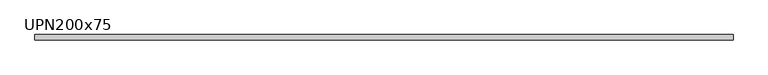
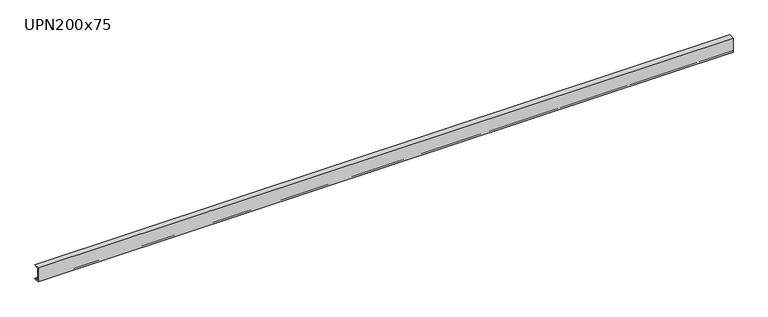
"""IFC4 building model written with IfcOpenShell, lengths in millimetres: beam geometry, M_MC Shapes : UPN200x75."""

import ifcopenshell
import ifcopenshell.guid

model = None  # the IFC model being written
_history = None  # IfcOwnerHistory: only IFC2X3 demands one
_inside = {}  # id of a spatial element -> (the spatial element, [elements in it])
_under = {}  # id of a project, library or spatial element -> (it, [spatial elements below it])
_declared = {}  # id of a project -> (the project, [libraries it declares])
_typed = {}  # id of a type object -> (the type object, [elements of that type])
_made_of = {}  # id of a material, layer set ... -> (it, [elements and type objects made of it])


def new_model(schema):
    """Start an empty IFC model of exactly this schema.

    Asked for "IFC4X3", IfcOpenShell would pick the latest addendum, in which some entities
    have other attributes; the version numbers below select the first issue.
    IFC2X3 requires an IfcOwnerHistory on every rooted entity: one is made here for all.
    """
    global model, _history
    if schema == "IFC4X3":
        model = ifcopenshell.file(schema_version=(4, 3, 0, 0))
    else:
        model = ifcopenshell.file(schema=schema)
    _inside.clear()
    _under.clear()
    _declared.clear()
    _typed.clear()
    _made_of.clear()
    _history = None
    if model.schema == "IFC2X3":
        org = make("IfcOrganization", Name="unknown")
        user = make(
            "IfcPersonAndOrganization",
            ThePerson=make("IfcPerson", FamilyName="unknown"),
            TheOrganization=org,
        )
        app = make(
            "IfcApplication",
            ApplicationDeveloper=org,
            Version="unknown",
            ApplicationFullName="unknown",
            ApplicationIdentifier="unknown",
        )
        _history = make(
            "IfcOwnerHistory",
            OwningUser=user,
            OwningApplication=app,
            ChangeAction="ADDED",
            CreationDate=0,
        )
    return model


def make(cls, **values):
    """One entity of the class cls with the attributes given. An attribute that is None is left unset."""
    return model.create_entity(
        cls, **{name: value for name, value in values.items() if value is not None}
    )


def rooted(cls, **values):
    """An entity with a GlobalId (a new one), such as an element, a storey or a relation."""
    return make(cls, GlobalId=ifcopenshell.guid.new(), OwnerHistory=_history, **values)


def si_unit(unit_type, name, prefix=None):
    """IfcSIUnit, for example si_unit("LENGTHUNIT", "METRE", prefix="MILLI")."""
    return make("IfcSIUnit", UnitType=unit_type, Prefix=prefix, Name=name)


def assignment(units):
    """IfcUnitAssignment: the units of a project."""
    return None if units is None else make("IfcUnitAssignment", Units=units)


def point(xyz):
    """IfcCartesianPoint."""
    return None if xyz is None else make("IfcCartesianPoint", Coordinates=xyz)


def direction(xyz):
    """IfcDirection."""
    return None if xyz is None else make("IfcDirection", DirectionRatios=xyz)


def frame(location, z_axis=None, x_axis=None):
    """IfcAxis2Placement3D, a coordinate frame: its origin and axes. An axis left out is left unset."""
    return make(
        "IfcAxis2Placement3D",
        Location=point(location),
        Axis=direction(z_axis),
        RefDirection=direction(x_axis),
    )


def frame_2d(location, x_axis=None):
    """IfcAxis2Placement2D, a coordinate frame in the plane: its origin and x axis."""
    return make(
        "IfcAxis2Placement2D", Location=point(location), RefDirection=direction(x_axis)
    )


def origin():
    """The frame at (0, 0, 0) with its axes left unset."""
    return frame((0.0, 0.0, 0.0))


def place(relative_to, where):
    """IfcLocalPlacement: puts the frame where relative to a parent placement (None: the world)."""
    return make(
        "IfcLocalPlacement", PlacementRelTo=relative_to, RelativePlacement=where
    )


def context(
    kind, dimensions, precision=None, world=None, true_north=None, identifier=None
):
    """IfcGeometricRepresentationContext, for example the 3D "Model" context."""
    return make(
        "IfcGeometricRepresentationContext",
        ContextIdentifier=identifier,
        ContextType=kind,
        CoordinateSpaceDimension=dimensions,
        Precision=precision,
        WorldCoordinateSystem=world,
        TrueNorth=true_north,
    )


def project(units=None, contexts=None):
    """IfcProject with its units and contexts."""
    return rooted(
        "IfcProject",
        Name="project",
        RepresentationContexts=contexts,
        UnitsInContext=assignment(units),
    )


def spatial(cls, under=None, at=None, **own):
    """A site, building, storey or space (cls), placed at a placement, below another one or the project."""
    s = rooted(cls, ObjectPlacement=at, **own)
    if under is not None:
        _under.setdefault(under.id(), (under, []))[1].append(s)
    return s


def polyline(points):
    """IfcPolyline through the points."""
    return make("IfcPolyline", Points=[point(p) for p in points])


def circle_curve(where, radius):
    """IfcCircle in the frame where."""
    return make("IfcCircle", Position=where, Radius=radius)


def trimmed(basis, trim1, trim2, sense, master):
    """IfcTrimmedCurve: the piece of a basis curve between two trims."""
    return make(
        "IfcTrimmedCurve",
        BasisCurve=basis,
        Trim1=trim1,
        Trim2=trim2,
        SenseAgreement=sense,
        MasterRepresentation=master,
    )


def segment(curve, same_sense, transition):
    """IfcCompositeCurveSegment."""
    return make(
        "IfcCompositeCurveSegment",
        Transition=transition,
        SameSense=same_sense,
        ParentCurve=curve,
    )


def composite_curve(segments, self_intersect=None):
    """IfcCompositeCurve: segments joined end to end."""
    return make("IfcCompositeCurve", Segments=segments, SelfIntersect=self_intersect)


def outline(outer, holes=None, kind="AREA"):
    """IfcArbitraryClosedProfileDef: a profile drawn as a closed curve; with holes, ...WithVoids."""
    if holes is None:
        return make("IfcArbitraryClosedProfileDef", ProfileType=kind, OuterCurve=outer)
    return make(
        "IfcArbitraryProfileDefWithVoids",
        ProfileType=kind,
        OuterCurve=outer,
        InnerCurves=holes,
    )


def extrude(swept, where, along, depth):
    """IfcExtrudedAreaSolid: the profile swept, set in the frame where, extruded along a direction by depth."""
    return make(
        "IfcExtrudedAreaSolid",
        SweptArea=swept,
        Position=where,
        ExtrudedDirection=direction(along),
        Depth=depth,
    )


def shape(context_of_items, identifier, shape_type, items):
    """IfcShapeRepresentation: the items that make up one representation, for example the "Body"."""
    return make(
        "IfcShapeRepresentation",
        ContextOfItems=context_of_items,
        RepresentationIdentifier=identifier,
        RepresentationType=shape_type,
        Items=items,
    )


def source(mapping_origin, context_of_items, identifier, shape_type, items):
    """IfcRepresentationMap: a shape defined once, which mapped items show again and again."""
    return make(
        "IfcRepresentationMap",
        MappingOrigin=mapping_origin,
        MappedRepresentation=shape(context_of_items, identifier, shape_type, items),
    )


def transform(
    local_origin,
    x_axis=None,
    y_axis=None,
    z_axis=None,
    scale=None,
    scale2=None,
    scale3=None,
    uniform=True,
):
    """IfcCartesianTransformationOperator3D, or its non-uniform kind. x_axis, y_axis, z_axis: its Axis1, 2, 3."""
    if uniform:
        return make(
            "IfcCartesianTransformationOperator3D",
            Axis1=direction(x_axis),
            Axis2=direction(y_axis),
            LocalOrigin=point(local_origin),
            Scale=scale,
            Axis3=direction(z_axis),
        )
    return make(
        "IfcCartesianTransformationOperator3DnonUniform",
        Axis1=direction(x_axis),
        Axis2=direction(y_axis),
        LocalOrigin=point(local_origin),
        Scale=scale,
        Axis3=direction(z_axis),
        Scale2=scale2,
        Scale3=scale3,
    )


def mapped(mapping_source, mapping_target):
    """IfcMappedItem: shows the shape of a source again, moved by a transform."""
    return make(
        "IfcMappedItem", MappingSource=mapping_source, MappingTarget=mapping_target
    )


def made_of(thing, what):
    """Note that an element or type object is made of a material, layer set ...; save() writes the relation."""
    if what is not None:
        _made_of.setdefault(what.id(), (what, []))[1].append(thing)
    return thing


def element(
    cls,
    number,
    at=None,
    inside=None,
    cuts=None,
    type_object=None,
    material=None,
    context=None,
    identifier="Body",
    shape_type=None,
    held_by="IfcProductDefinitionShape",
    body=None,
    shapes=None,
    **own,
):
    """One element of the class cls, such as IfcWall. Its Tag is "e" and its number.

    at: its placement. inside: the storey or other place that contains it. cuts: it is an
    opening in that element (IfcRelVoidsElement). A single representation is given by context,
    identifier, shape_type and body (its items); several are given by shapes. held_by: the class
    of the entity that holds the representations. save() writes the other relations.
    """
    e = rooted(cls, Tag="e%d" % number, ObjectPlacement=at, **own)
    if body is not None:
        shapes = [shape(context, identifier, shape_type, body)]
    if shapes is not None:
        e.Representation = make(held_by, Representations=shapes)
    if inside is not None:
        _inside.setdefault(inside.id(), (inside, []))[1].append(e)
    if cuts is not None:
        rooted(
            "IfcRelVoidsElement", RelatingBuildingElement=cuts, RelatedOpeningElement=e
        )
    if type_object is not None:
        _typed.setdefault(type_object.id(), (type_object, []))[1].append(e)
    return made_of(e, material)


def aggregate(whole, parts):
    """IfcRelAggregates: a whole, such as a stair, and the parts it consists of."""
    return rooted("IfcRelAggregates", RelatingObject=whole, RelatedObjects=parts)


def save(model, path):
    """Write the relations noted so far, then the file.

    IfcRelAggregates (storeys below a building ...), IfcRelContainedInSpatialStructure (elements
    in a storey), IfcRelDefinesByType, IfcRelAssociatesMaterial and IfcRelDeclares: one each for
    every whole, place, type object, material and project.
    """
    for whole, parts in _under.values():
        aggregate(whole, parts)
    for where, things in _inside.values():
        rooted(
            "IfcRelContainedInSpatialStructure",
            RelatedElements=things,
            RelatingStructure=where,
        )
    for kind, things in _typed.values():
        rooted("IfcRelDefinesByType", RelatedObjects=things, RelatingType=kind)
    for what, things in _made_of.values():
        rooted("IfcRelAssociatesMaterial", RelatedObjects=things, RelatingMaterial=what)
    for by, libraries in _declared.values():
        rooted("IfcRelDeclares", RelatingContext=by, RelatedDefinitions=libraries)
    model.write(path)


def upn200x75_ab35ba71(model_context):
    return source(origin(), model_context, "Body", "SweptSolid", [
        extrude(outline(composite_curve([segment(polyline([(-10.9, 100.0), (64.1, 100.0), (64.1, 99.0253247)]), True, "CONTINUOUS"), segment(trimmed(circle_curve(frame_2d((60.15, 99.0253247)), 3.95), [point((64.1, 99.0253247))], [point((60.7993773, 95.1290689))], False, "CARTESIAN"), True, "CONTINUOUS"), segment(polyline([(60.7993773, 95.1290689), (0.2512455, 85.0376935)]), True, "CONTINUOUS"), segment(trimmed(circle_curve(frame_2d((1.55, 77.2451819)), 7.9), [point((0.2512455, 85.0376935))], [point((-6.35, 77.2451819))], True, "CARTESIAN"), True, "CONTINUOUS"), segment(polyline([(-6.35, 77.2451819), (-6.35, -77.2451819)]), True, "CONTINUOUS"), segment(trimmed(circle_curve(frame_2d((1.55, -77.2451819)), 7.9), [point((-6.35, -77.2451819))], [point((0.2512455, -85.0376935))], True, "CARTESIAN"), True, "CONTINUOUS"), segment(polyline([(0.2512455, -85.0376935), (60.7993773, -95.1290689)]), True, "CONTINUOUS"), segment(trimmed(circle_curve(frame_2d((60.15, -99.0253247)), 3.95), [point((60.7993773, -95.1290689))], [point((64.1, -99.0253247))], False, "CARTESIAN"), True, "CONTINUOUS"), segment(polyline([(64.1, -99.0253247), (64.1, -100.0), (-10.9, -100.0), (-10.9, 100.0)]), True, "CONTINUOUS")], self_intersect=False)), frame((-4575.2, 0.0, 0.0), z_axis=(1.0, 0.0, 0.0), x_axis=(0.0, 1.0, 0.0)), (0.0, 0.0, 1.0), 9388.1),
    ])


if __name__ == "__main__":
    model = new_model("IFC4")
    model_context = context("Model", 3, world=origin())
    ifc_project = project(units=[si_unit("LENGTHUNIT", "METRE", prefix="MILLI")], contexts=[model_context])
    site = spatial("IfcSite", under=ifc_project)
    building = spatial("IfcBuilding", under=site)
    placement = place(None, origin())
    upn200x75_shape = upn200x75_ab35ba71(model_context)
    element("IfcBeam", 1, ObjectType="M_MC Shapes : UPN200x75", at=placement, inside=building, context=model_context, shape_type="MappedRepresentation", body=[
        mapped(upn200x75_shape, transform((0.0, 0.0, 0.0), x_axis=(1.0, 0.0, 0.0), y_axis=(0.0, 1.0, 0.0), z_axis=(0.0, 0.0, 1.0))),
    ])
    save(model, "model.ifc")
